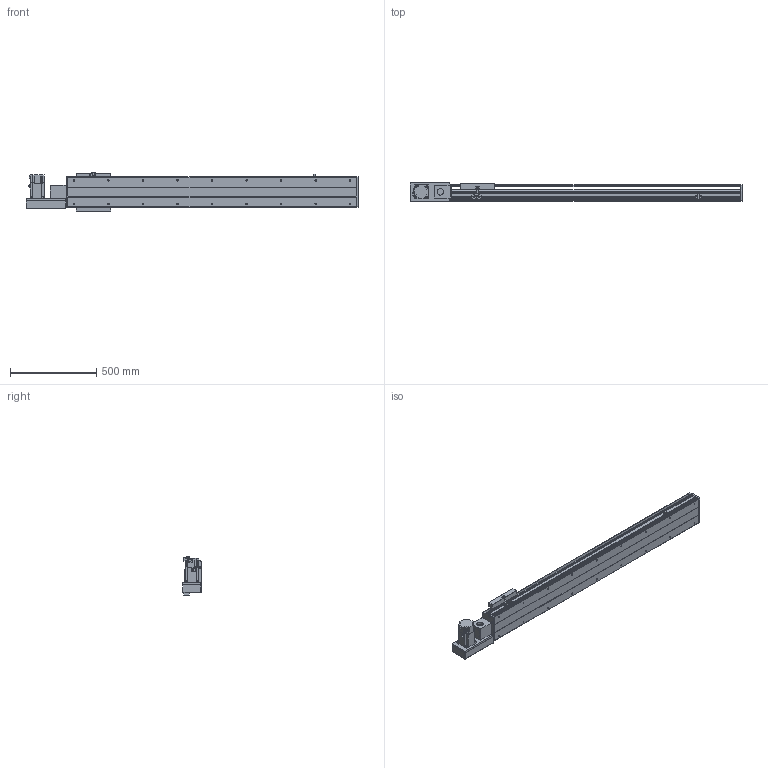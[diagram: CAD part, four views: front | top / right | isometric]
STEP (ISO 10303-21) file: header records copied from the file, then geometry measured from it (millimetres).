
FILE_DESCRIPTION(/* description */ ('STEP AP214'),/* implementation_level */ '2;1');
FILE_NAME(/* name */ 'PBS200-P40-S1300-L-T75-C1-N(0)',/* time_stamp */ '2022-06-11T07:49:04+02:00',/* author */ ('License CC BY-ND 4.0'),/* organization */ ('CADENAS'),/* preprocessor_version */ 'ST-DEVELOPER v18.102',/* originating_system */ 'PARTsolutions',/* authorisation */ ' ');
FILE_SCHEMA (('AUTOMOTIVE_DESIGN {1 0 10303 214 3 1 1}'));
Length unit declared in the file: millimetre
Products named in the file (7): PBS200-P40-S1300-L-T75-C1-N(0); PBS200_sensor; PBS200_plant; PBS200_sliser; T75-p1; PBS200T-L_motors; PBS200-S1300()_body
Assembly tree (8 placements, depth 2):
  PBS200-P40-S1300-L-T75-C1-N(0)
    PBS200_sensor  x3
    PBS200_plant
    PBS200_sliser
    T75-p1
    PBS200T-L_motors
    PBS200-S1300()_body
Bounding box: 1922 x 109 x 221 mm (x, y, z)
Volume: 13110994.8 mm3; surface area: 2114686.4 mm2
Topology: 8 solids, 8 shells, 926 faces, 2384 edges, 1554 vertices
Faces by surface type: plane 576, cylinder 300, cone 50
Full cylindrical faces by diameter (mm): 2.459 x6, 3.242 x4, 4.5 x6, 4.917 x4, 5 x6, 6 x7, 6.6 x8, 6.647 x22, 8 x6, 10 x4, 12 x8, 38 x2, 40 x1, 70 x1
Entity records: 24701 total; most frequent: DIRECTION 4351, CARTESIAN_POINT 4210, ORIENTED_EDGE 3994, EDGE_CURVE 1997, AXIS2_PLACEMENT_3D 1519, VERTEX_POINT 1378, LINE 1313, VECTOR 1313
